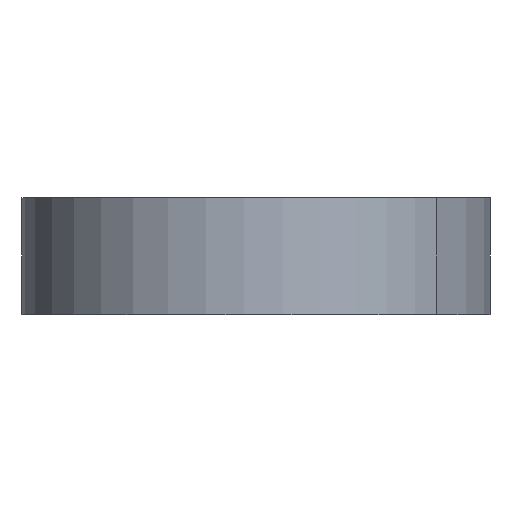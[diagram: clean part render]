
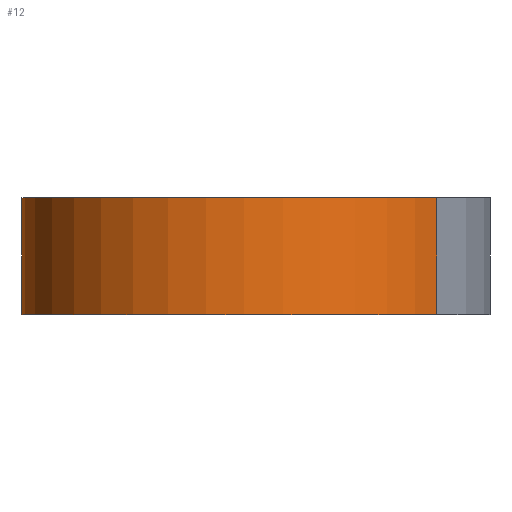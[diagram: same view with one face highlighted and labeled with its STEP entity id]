
A CAD part, left-side view. The second image highlights one B-rep face of the part: STEP entity #12.
In plain terms, the highlighted cylindrical face has radius 19 mm (diameter 38 mm), a partial arc.
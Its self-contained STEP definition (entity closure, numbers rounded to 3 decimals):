
#12 = ADVANCED_FACE ( 'NONE', ( #707 ), #717, .T. ) ;
#203 = EDGE_CURVE ( 'NONE', #205, #1735, #956, .T. ) ;
#205 = VERTEX_POINT ( 'NONE', #961 ) ;
#216 = DIRECTION ( 'NONE',  ( 1., 0., 0. ) ) ;
#231 = EDGE_CURVE ( 'NONE', #690, #257, #978, .T. ) ;
#257 = VERTEX_POINT ( 'NONE', #1050 ) ;
#690 = VERTEX_POINT ( 'NONE', #1774 ) ;
#704 = AXIS2_PLACEMENT_3D ( 'NONE', #708, #719, #712 ) ;
#707 = FACE_OUTER_BOUND ( 'NONE', #2171, .T. ) ;
#708 = CARTESIAN_POINT ( 'NONE',  ( -131., 21., 0. ) ) ;
#712 = DIRECTION ( 'NONE',  ( 1., 0., 0. ) ) ;
#717 = CYLINDRICAL_SURFACE ( 'NONE', #704, 19. ) ;
#719 = DIRECTION ( 'NONE',  ( 0., 0., 1. ) ) ;
#940 = CARTESIAN_POINT ( 'NONE',  ( -131., 21., 10. ) ) ;
#956 = CIRCLE ( 'NONE', #996, 19. ) ;
#961 = CARTESIAN_POINT ( 'NONE',  ( -140.5, 4.546, 10. ) ) ;
#968 = DIRECTION ( 'NONE',  ( 0., 0., -1. ) ) ;
#969 = CARTESIAN_POINT ( 'NONE',  ( -131., 21., 0. ) ) ;
#974 = AXIS2_PLACEMENT_3D ( 'NONE', #969, #968, #216 ) ;
#978 = CIRCLE ( 'NONE', #974, 19. ) ;
#992 = DIRECTION ( 'NONE',  ( 1., 0., 0. ) ) ;
#993 = DIRECTION ( 'NONE',  ( 0., 0., -1. ) ) ;
#996 = AXIS2_PLACEMENT_3D ( 'NONE', #940, #993, #992 ) ;
#1050 = CARTESIAN_POINT ( 'NONE',  ( -131., 40., 0. ) ) ;
#1735 = VERTEX_POINT ( 'NONE', #1822 ) ;
#1774 = CARTESIAN_POINT ( 'NONE',  ( -140.5, 4.546, 0. ) ) ;
#1822 = CARTESIAN_POINT ( 'NONE',  ( -131., 40., 10. ) ) ;
#1860 = CARTESIAN_POINT ( 'NONE',  ( -140.5, 4.546, 0. ) ) ;
#1903 = DIRECTION ( 'NONE',  ( 0., 0., 1. ) ) ;
#1904 = VECTOR ( 'NONE', #1903, 1000. ) ;
#1905 = LINE ( 'NONE', #1860, #1904 ) ;
#1906 = LINE ( 'NONE', #1912, #1911 ) ;
#1910 = DIRECTION ( 'NONE',  ( 0., 0., 1. ) ) ;
#1911 = VECTOR ( 'NONE', #1910, 1000. ) ;
#1912 = CARTESIAN_POINT ( 'NONE',  ( -131., 40., 0. ) ) ;
#2150 = EDGE_CURVE ( 'NONE', #690, #205, #1905, .T. ) ;
#2156 = EDGE_CURVE ( 'NONE', #257, #1735, #1906, .T. ) ;
#2171 = EDGE_LOOP ( 'NONE', ( #2187, #2177, #2199, #2174 ) ) ;
#2174 = ORIENTED_EDGE ( 'NONE', *, *, #2150, .T. ) ;
#2177 = ORIENTED_EDGE ( 'NONE', *, *, #2156, .F. ) ;
#2187 = ORIENTED_EDGE ( 'NONE', *, *, #203, .T. ) ;
#2199 = ORIENTED_EDGE ( 'NONE', *, *, #231, .F. ) ;
